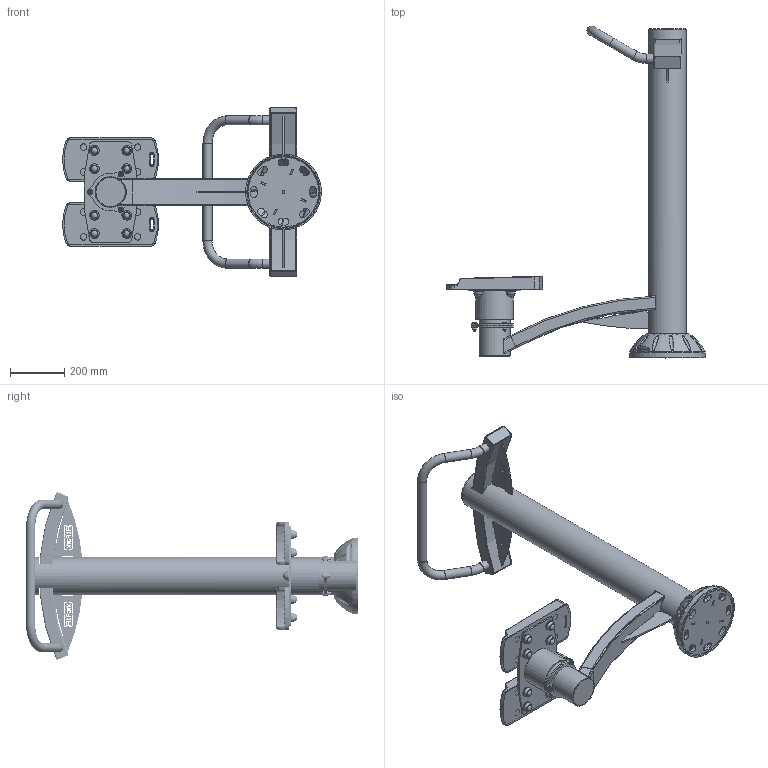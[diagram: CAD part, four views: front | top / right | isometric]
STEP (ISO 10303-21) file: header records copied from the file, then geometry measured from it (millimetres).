
FILE_DESCRIPTION (( 'STEP AP203' ), '1' );
FILE_NAME ('S0202 - TWISTER DEBOUT SIMPLE V1.2.STEP', '2021-02-19T12:11:41', ( '' ), ( '' ), 'SwSTEP 2.0', 'SolidWorks 2020', '' );
FILE_SCHEMA (( 'CONFIG_CONTROL_DESIGN' ));
Length unit declared in the file: millimetre
Products named in the file (53): TROND114.3X3 - Tube D.114,3x3 L=110 V1.0; S0202 - TWISTER DEBOUT SIMPLE V1.2; TRELIACOL-S0202 - Tube liaison colonne Twister V1.0; TROND114.3X3 - Tube D.114,3x3 L=34 V1.0; TOLPLAT-S0202 - Platine twister debout V1.0; TOLSRP344 - Insert platine repose pied V1.1; SCH1809 - Chapeau D109 V1.0; PLATPIV-S0202 - PLATINE PIVOT TWISTER ASS V1.3; SUPDE-S0202 - SUPPORT PIVOT TWISTER DEBOUT ASS V1.1; SC0306B - Base pour capuchon en nylon 36mm; SCH1807 - Chapeau 96x46 V1.0; SRP0206 - Repose pied V3.1; SRR0827 - Roulement 32006 30x55x17 conique à rouleaux; SB0113 - Vis Torx teton central M8x25_M8x20; SRP0206 - REPOSE PIED ASS V4.0_Capuchon Ｑ 6; SF1110 - Ecrou borgne frein M8 A2; SBA1610 - Bague Twister pour axe D.20 V1.0; SBA1632 - Bague d.30 D.40 L12 V1.0; TROCBRIA61 - Bride ajourée pour bague D.61 V1.0; SF1107 - Ecrou M8 zingué_default; PU-TOLPLAT - Platine base V1.0; SC0306C - Petit capuchon en nylon 36 mm; SR0415 - Rondelle Grower M8 A2; SBA1631 - Bague 32006 L85 V1.0; PU-TRETRAV570 - Tube rectangulaire cintré R1200 100x50x3 L570 V1.0; SBU1010 - Butee conique inox D.30 L=30; SR0404 - Rondelle plate Moyenne M8 A2; TROND-50-30 - Tube D.50x2,5 L=30 V1.0; SBU1027 - Pion plat pour butée conique V1.0; PU-TDRFIT219 - Tole renfort Fitpark L219 H106 V1.0; PU-TOLGOCCOTW - Gousset contre colonne Twister V1.0; TROCGUI-C0601.A - Tube guidon Twister Stepper V1.1; SF1123 - Ecrou à encoches M20x1; BATI-S0202 - BATI TWISTER DEBOUT SIMPLE V1.2; PU-TOLGOPL - Gousset platine V2.0; SR0448 - Rondelle pour écrou à encoches M20x1; TROND139,7X3 - Tube D.139,7x3 L=105 V1.0; SJO3101 - Joint à lèvres 40x55x8; TROCSPP102-30 - Support pion plat D.102 d.30 V1.0; PU-TROCB1200TS - Colonne base haute D.139,7x3 Ht1200 Twister Simple V1.0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
Assembly tree (108 placements, depth 4):
  S0202 - TWISTER DEBOUT SIMPLE V1.2
    BATI-S0202 - BATI TWISTER DEBOUT SIMPLE V1.2
      TROND114.3X3 - Tube D.114,3x3 L=110 V1.0
      PLATINE BASE ASS V2.0
        PU-TOLPLAT - Platine base V1.0
        PU-TOLGOPL - Gousset platine V2.0  x4
      PU-TROCB1200TS - Colonne base haute D.139,7x3 Ht1200 Twister Simple V1.0
      PU-TRETRAV618 - Tube rectangulaire cintré R750 100x50x3 L618 V1.0_Trous D.33,7 non traversant 2
      PU-TDRFIT219 - Tole renfort Fitpark L219 H106 V1.0  x2
      SCH1807 - Chapeau 96x46 V1.0  x2
      PU-TRETRAV570 - Tube rectangulaire cintré R1200 100x50x3 L570 V1.0
      TRELIACOL-S0202 - Tube liaison colonne Twister V1.0
      TROCGUI-C0601.A - Tube guidon Twister Stepper V1.1
      SCH1806.A - Chapeau D135 V1.2
      PU-TOLGOCCOTW - Gousset contre colonne Twister V1.0
      TROCBRIA114 - Bride ajourée pour tube D.114 V1.0
      SCH1809 - Chapeau D109 V1.0
    SRP0206 - REPOSE PIED ASS V4.0_Capuchon Ｑ 6
      SRP0206 - Repose pied V3.1
      SR0404 - Rondelle plate Moyenne M8 A2  x4
      SC0306B - Base pour capuchon en nylon 36mm  x4
      SF1100 - Ecrou frein M8 A2  x4
      SC0306C - Petit capuchon en nylon 36 mm  x4
      TOLSRP344 - Insert platine repose pied V1.1
    SRP0206 - REPOSE PIED ASS V4.0_Capuchon Ｑ 6
      SRP0206 - Repose pied V3.1
      SR0404 - Rondelle plate Moyenne M8 A2  x4
      SC0306B - Base pour capuchon en nylon 36mm  x4
      SF1100 - Ecrou frein M8 A2  x4
      SC0306C - Petit capuchon en nylon 36 mm  x4
      TOLSRP344 - Insert platine repose pied V1.1
    SC0304 - CACHE PLATINE ASS V4.0
      SC0304 - Demi cache platine D140 V4.0
      SB0112 - Vis Torx teton central M8x20_M8x20  x2
      SC0304 - Demi cache platine D140 V4.0_Demi
    PLATPIV-S0202 - PLATINE PIVOT TWISTER ASS V1.3
      TOLPLAT-S0202 - Platine twister debout V1.0
      SBA1610 - Bague Twister pour axe D.20 V1.0
      TROCSPP102-30 - Support pion plat D.102 d.30 V1.0
      TROND-50-30 - Tube D.50x2,5 L=30 V1.0
      SBU1023 - Pion plat long butée angulaire V1.0
      TROND139,7X3 - Tube D.139,7x3 L=105 V1.0
      SBA1632 - Bague d.30 D.40 L12 V1.0
      SR0448 - Rondelle pour écrou à encoches M20x1
      SR0424 - Rondelle plate M20 zinguée
      SF1123 - Ecrou à encoches M20x1
    SC0306C - Petit capuchon en nylon 36 mm
    SC0306B - Base pour capuchon en nylon 36mm
    SUPDE-S0202 - SUPPORT PIVOT TWISTER DEBOUT ASS V1.1
      TROCBRIA61 - Bride ajourée pour bague D.61 V1.0
      TROND114.3X3 - Tube D.114,3x3 L=34 V1.0
      TROCSDPP107-61T - Support double pions plat pour Twister D.107 d.61 V1.1
      SBA1631 - Bague 32006 L85 V1.0
      SBU1027 - Pion plat pour butée conique V1.0  x2
    SRR0827 - Roulement 32006 30x55x17 conique à rouleaux  x2
    SJO3101 - Joint à lèvres 40x55x8  x2
    SBU1010 - Butee conique inox D.30 L=30  x2
    SR0404 - Rondelle plate Moyenne M8 A2  x8
    SR0415 - Rondelle Grower M8 A2  x2
    SF1107 - Ecrou M8 zingué_default  x2
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Bounding box: 957.25 x 1227.36 x 621.97 mm (x, y, z)
Volume: 8565301.7 mm3; surface area: 3649907.1 mm2
Topology: 106 solids, 122 shells, 3644 faces, 8729 edges, 5574 vertices
Faces by surface type: plane 1397, bspline 711, cone 645, cylinder 608, torus 265, sphere 18
Full cylindrical faces by diameter (mm): 1.8 x5, 5 x8, 6.647 x22, 6.75 x2, 6.95 x5, 8 x26, 8.2 x16, 8.4 x16, 8.7 x2, 8.75 x16, 9.2 x9, 9.3 x3, 10 x10, 10.5 x4, 11.5 x9, 13 x8, 18 x16, 20.1 x1, 21 x1, 22 x9, 24 x10, 26 x9, 27.9 x5, 30 x3, 30.2 x1, 30.3 x1, 33.7 x5, 35 x3, 36 x9, 40 x2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
Entity records: 179129 total; most frequent: CARTESIAN_POINT 127774, ORIENTED_EDGE 9332, DIRECTION 8300, EDGE_CURVE 4666, AXIS2_PLACEMENT_3D 3360, VERTEX_POINT 3133, EDGE_LOOP 2711, FACE_OUTER_BOUND 2312
